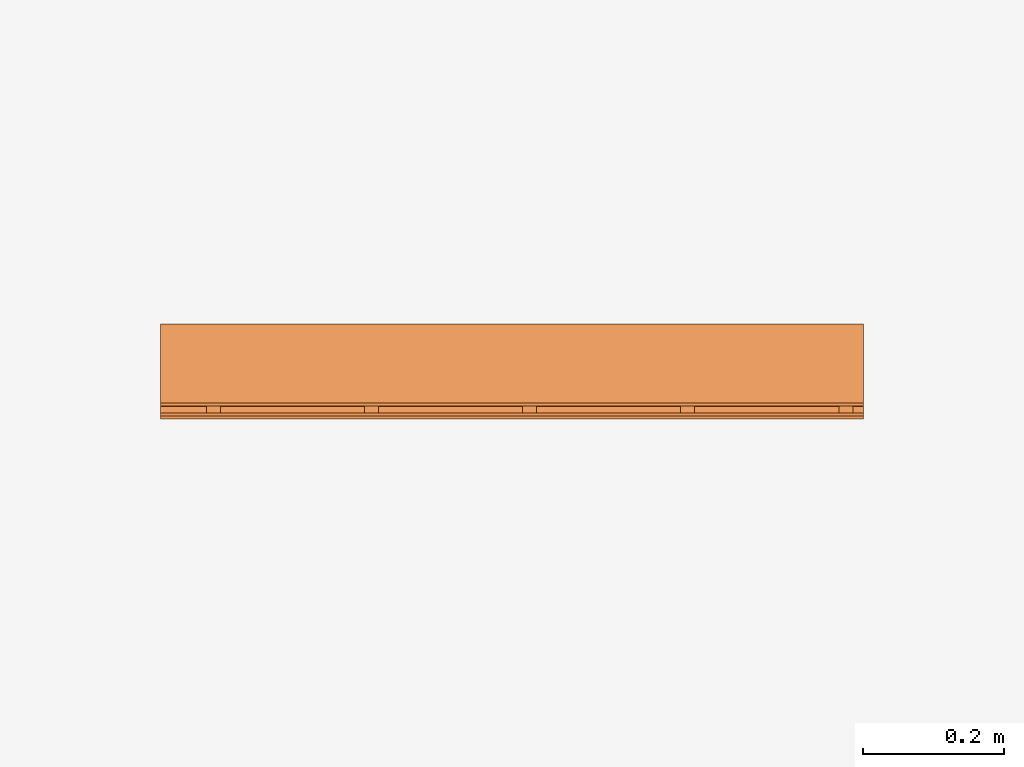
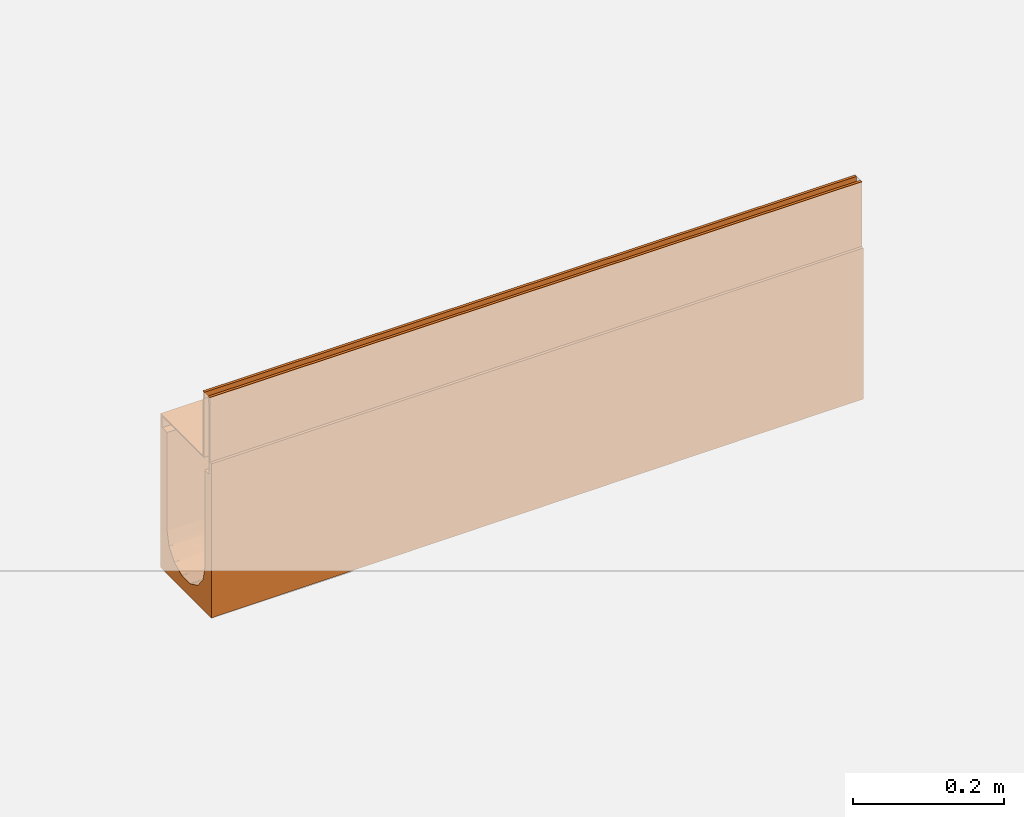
# One storey, part 2 of 2: 1 proxy.
"""IFC2X3 building model written with IfcOpenShell, lengths in millimetres."""

import ifcopenshell
import ifcopenshell.guid

model = None  # the IFC model being written
_history = None  # IfcOwnerHistory: only IFC2X3 demands one
_inside = {}  # id of a spatial element -> (the spatial element, [elements in it])
_under = {}  # id of a project, library or spatial element -> (it, [spatial elements below it])
_declared = {}  # id of a project -> (the project, [libraries it declares])
_typed = {}  # id of a type object -> (the type object, [elements of that type])
_made_of = {}  # id of a material, layer set ... -> (it, [elements and type objects made of it])


def new_model(schema):
    """Start an empty IFC model of exactly this schema.

    Asked for "IFC4X3", IfcOpenShell would pick the latest addendum, in which some entities
    have other attributes; the version numbers below select the first issue.
    IFC2X3 requires an IfcOwnerHistory on every rooted entity: one is made here for all.
    """
    global model, _history
    if schema == "IFC4X3":
        model = ifcopenshell.file(schema_version=(4, 3, 0, 0))
    else:
        model = ifcopenshell.file(schema=schema)
    _inside.clear()
    _under.clear()
    _declared.clear()
    _typed.clear()
    _made_of.clear()
    _history = None
    if model.schema == "IFC2X3":
        org = make("IfcOrganization", Name="unknown")
        user = make(
            "IfcPersonAndOrganization",
            ThePerson=make("IfcPerson", FamilyName="unknown"),
            TheOrganization=org,
        )
        app = make(
            "IfcApplication",
            ApplicationDeveloper=org,
            Version="unknown",
            ApplicationFullName="unknown",
            ApplicationIdentifier="unknown",
        )
        _history = make(
            "IfcOwnerHistory",
            OwningUser=user,
            OwningApplication=app,
            ChangeAction="ADDED",
            CreationDate=0,
        )
    return model


def make(cls, **values):
    """One entity of the class cls with the attributes given. An attribute that is None is left unset."""
    return model.create_entity(
        cls, **{name: value for name, value in values.items() if value is not None}
    )


def entity(cls, *values):
    """Any entity or typed value of the class cls, its attributes in the order of the schema. None: left unset."""
    e = model.create_entity(cls)
    for i, value in enumerate(values):
        if value is not None:
            e[i] = value
    return e


def rooted(cls, **values):
    """An entity with a GlobalId (a new one), such as an element, a storey or a relation."""
    return make(cls, GlobalId=ifcopenshell.guid.new(), OwnerHistory=_history, **values)


def si_unit(unit_type, name, prefix=None):
    """IfcSIUnit, for example si_unit("LENGTHUNIT", "METRE", prefix="MILLI")."""
    return make("IfcSIUnit", UnitType=unit_type, Prefix=prefix, Name=name)


def converted_unit(unit_type, name, factor, base, dimensions=None, offset=None):
    """IfcConversionBasedUnit, such as the inch: factor (a typed value) times the base unit."""
    return make(
        "IfcConversionBasedUnit"
        if offset is None
        else "IfcConversionBasedUnitWithOffset",
        ConversionOffset=offset,
        Dimensions=None
        if dimensions is None
        else entity("IfcDimensionalExponents", *dimensions),
        UnitType=unit_type,
        Name=name,
        ConversionFactor=make(
            "IfcMeasureWithUnit", ValueComponent=factor, UnitComponent=base
        ),
    )


def assignment(units):
    """IfcUnitAssignment: the units of a project."""
    return None if units is None else make("IfcUnitAssignment", Units=units)


def point(xyz):
    """IfcCartesianPoint."""
    return None if xyz is None else make("IfcCartesianPoint", Coordinates=xyz)


def direction(xyz):
    """IfcDirection."""
    return None if xyz is None else make("IfcDirection", DirectionRatios=xyz)


def frame(location, z_axis=None, x_axis=None):
    """IfcAxis2Placement3D, a coordinate frame: its origin and axes. An axis left out is left unset."""
    return make(
        "IfcAxis2Placement3D",
        Location=point(location),
        Axis=direction(z_axis),
        RefDirection=direction(x_axis),
    )


def origin():
    """The frame at (0, 0, 0) with its axes left unset."""
    return frame((0.0, 0.0, 0.0))


def place(relative_to, where):
    """IfcLocalPlacement: puts the frame where relative to a parent placement (None: the world)."""
    return make(
        "IfcLocalPlacement", PlacementRelTo=relative_to, RelativePlacement=where
    )


def context(
    kind, dimensions, precision=None, world=None, true_north=None, identifier=None
):
    """IfcGeometricRepresentationContext, for example the 3D "Model" context."""
    return make(
        "IfcGeometricRepresentationContext",
        ContextIdentifier=identifier,
        ContextType=kind,
        CoordinateSpaceDimension=dimensions,
        Precision=precision,
        WorldCoordinateSystem=world,
        TrueNorth=true_north,
    )


def subcontext(parent, identifier, kind, view, scale=None):
    """IfcGeometricRepresentationSubContext, for example "Body" below "Model"."""
    return make(
        "IfcGeometricRepresentationSubContext",
        ContextIdentifier=identifier,
        ContextType=kind,
        ParentContext=parent,
        TargetScale=scale,
        TargetView=view,
    )


def project(units=None, contexts=None):
    """IfcProject with its units and contexts."""
    return rooted(
        "IfcProject",
        Name="project",
        RepresentationContexts=contexts,
        UnitsInContext=assignment(units),
    )


def spatial(cls, under=None, at=None, **own):
    """A site, building, storey or space (cls), placed at a placement, below another one or the project."""
    s = rooted(cls, ObjectPlacement=at, **own)
    if under is not None:
        _under.setdefault(under.id(), (under, []))[1].append(s)
    return s


def faces_of(points, faces, orient=None, outer=None):
    """IfcFace entities. A face is a list of loops; a loop is a list of indices into points, from 0.

    orient and outer hold one flag for each loop. By default every Orientation is true, the
    first loop of a face is its IfcFaceOuterBound and the others are IfcFaceBound.
    """
    made = []
    for i, loops in enumerate(faces):
        bounds = []
        for j, loop in enumerate(loops):
            is_outer = j == 0 if outer is None else outer[i][j]
            bounds.append(
                make(
                    "IfcFaceOuterBound" if is_outer else "IfcFaceBound",
                    Bound=make("IfcPolyLoop", Polygon=[points[k] for k in loop]),
                    Orientation=True if orient is None else orient[i][j],
                )
            )
        made.append(make("IfcFace", Bounds=bounds))
    return made


def faceted_brep(points, faces, orient=None, outer=None, voids=None):
    """IfcFacetedBrep: a solid bounded by flat faces; with voids (closed shells), ...WithVoids."""
    shared = [point(p) for p in points]
    hull = make("IfcClosedShell", CfsFaces=faces_of(shared, faces, orient, outer))
    if voids is None:
        return make("IfcFacetedBrep", Outer=hull)
    return make(
        "IfcFacetedBrepWithVoids",
        Outer=hull,
        Voids=[
            make(cls, CfsFaces=faces_of(shared, fs, o, b)) for cls, fs, o, b in voids
        ],
    )


def shape(context_of_items, identifier, shape_type, items):
    """IfcShapeRepresentation: the items that make up one representation, for example the "Body"."""
    return make(
        "IfcShapeRepresentation",
        ContextOfItems=context_of_items,
        RepresentationIdentifier=identifier,
        RepresentationType=shape_type,
        Items=items,
    )


def source(mapping_origin, context_of_items, identifier, shape_type, items):
    """IfcRepresentationMap: a shape defined once, which mapped items show again and again."""
    return make(
        "IfcRepresentationMap",
        MappingOrigin=mapping_origin,
        MappedRepresentation=shape(context_of_items, identifier, shape_type, items),
    )


def transform(
    local_origin,
    x_axis=None,
    y_axis=None,
    z_axis=None,
    scale=None,
    scale2=None,
    scale3=None,
    uniform=True,
):
    """IfcCartesianTransformationOperator3D, or its non-uniform kind. x_axis, y_axis, z_axis: its Axis1, 2, 3."""
    if uniform:
        return make(
            "IfcCartesianTransformationOperator3D",
            Axis1=direction(x_axis),
            Axis2=direction(y_axis),
            LocalOrigin=point(local_origin),
            Scale=scale,
            Axis3=direction(z_axis),
        )
    return make(
        "IfcCartesianTransformationOperator3DnonUniform",
        Axis1=direction(x_axis),
        Axis2=direction(y_axis),
        LocalOrigin=point(local_origin),
        Scale=scale,
        Axis3=direction(z_axis),
        Scale2=scale2,
        Scale3=scale3,
    )


def mapped(mapping_source, mapping_target):
    """IfcMappedItem: shows the shape of a source again, moved by a transform."""
    return make(
        "IfcMappedItem", MappingSource=mapping_source, MappingTarget=mapping_target
    )


def material(Name=None, Category=None):
    """IfcMaterial."""
    return make("IfcMaterial", Name=Name, Category=Category)


def material_list(materials):
    """IfcMaterialList."""
    return make("IfcMaterialList", Materials=materials)


def made_of(thing, what):
    """Note that an element or type object is made of a material, layer set ...; save() writes the relation."""
    if what is not None:
        _made_of.setdefault(what.id(), (what, []))[1].append(thing)
    return thing


def element(
    cls,
    number,
    at=None,
    inside=None,
    cuts=None,
    type_object=None,
    material=None,
    context=None,
    identifier="Body",
    shape_type=None,
    held_by="IfcProductDefinitionShape",
    body=None,
    shapes=None,
    **own,
):
    """One element of the class cls, such as IfcWall. Its Tag is "e" and its number.

    at: its placement. inside: the storey or other place that contains it. cuts: it is an
    opening in that element (IfcRelVoidsElement). A single representation is given by context,
    identifier, shape_type and body (its items); several are given by shapes. held_by: the class
    of the entity that holds the representations. save() writes the other relations.
    """
    e = rooted(cls, Tag="e%d" % number, ObjectPlacement=at, **own)
    if body is not None:
        shapes = [shape(context, identifier, shape_type, body)]
    if shapes is not None:
        e.Representation = make(held_by, Representations=shapes)
    if inside is not None:
        _inside.setdefault(inside.id(), (inside, []))[1].append(e)
    if cuts is not None:
        rooted(
            "IfcRelVoidsElement", RelatingBuildingElement=cuts, RelatedOpeningElement=e
        )
    if type_object is not None:
        _typed.setdefault(type_object.id(), (type_object, []))[1].append(e)
    return made_of(e, material)


def aggregate(whole, parts):
    """IfcRelAggregates: a whole, such as a stair, and the parts it consists of."""
    return rooted("IfcRelAggregates", RelatingObject=whole, RelatedObjects=parts)


def save(model, path):
    """Write the relations noted so far, then the file.

    IfcRelAggregates (storeys below a building ...), IfcRelContainedInSpatialStructure (elements
    in a storey), IfcRelDefinesByType, IfcRelAssociatesMaterial and IfcRelDeclares: one each for
    every whole, place, type object, material and project.
    """
    for whole, parts in _under.values():
        aggregate(whole, parts)
    for where, things in _inside.values():
        rooted(
            "IfcRelContainedInSpatialStructure",
            RelatedElements=things,
            RelatingStructure=where,
        )
    for kind, things in _typed.values():
        rooted("IfcRelDefinesByType", RelatedObjects=things, RelatingType=kind)
    for what, things in _made_of.values():
        rooted("IfcRelAssociatesMaterial", RelatedObjects=things, RelatingMaterial=what)
    for by, libraries in _declared.values():
        rooted("IfcRelDeclares", RelatingContext=by, RelatedDefinitions=libraries)
    model.write(path)


model = new_model("IFC2X3")

# Units and contexts
model_context = context("Model", 3, precision=1e-06, world=origin(), true_north=direction((2.0, 6.12303176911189e-17, 1.0)))
context_of_model = context(None, 3, precision=1e-06, world=origin(), true_north=direction((2.0, 6.12303176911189e-17, 1.0)))
body_context = subcontext(model_context, "Body", "Model", "MODEL_VIEW")
ifc_project = project(units=[si_unit("LENGTHUNIT", "METRE", prefix="MILLI"), si_unit("AREAUNIT", "SQUARE_METRE", prefix="MILLI"), si_unit("VOLUMEUNIT", "CUBIC_METRE", prefix="MILLI"), converted_unit("PLANEANGLEUNIT", "DEGREE", entity("IfcRatioMeasure", 0.0174532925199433), si_unit("PLANEANGLEUNIT", "RADIAN"), dimensions=[0, 0, 0, 0, 0, 0, 0]), si_unit("TIMEUNIT", "SECOND")], contexts=[model_context, context_of_model])

# Site, building, storey
site_placement = place(None, origin())
site = spatial("IfcSite", under=ifc_project, at=site_placement, Name="Default", CompositionType="ELEMENT")
building_placement = place(site_placement, origin())
building = spatial("IfcBuilding", under=site, at=building_placement, CompositionType="ELEMENT")
storey_placement = place(building_placement, origin())
storey = spatial("IfcBuildingStorey", under=building, at=storey_placement, Name="Level 1", CompositionType="ELEMENT", Elevation=0.0)

# Proxy
ifc_material_1 = material(Name="Steel, Galvanized")
ifc_material_2 = material(Name="Vienite® Synthetic Resin Concrete")
ifc_material_list = material_list([ifc_material_1, ifc_material_2])
shared_shape = source(origin(), body_context, "Body", "Brep", [
    faceted_brep([(63.249999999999, 15.0, -107.0), (63.249999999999, 17.0, -109.0), (63.249999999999, 33.0, -109.0), (63.249999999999, 35.0, -107.0), (63.249999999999, 17.0, -123.499999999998), (63.249999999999, 15.0, -125.499999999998), (63.249999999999, 33.0, -123.499999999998), (63.249999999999, 35.0, -125.499999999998), (-61.250000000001, 15.0, -125.499999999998), (-61.250000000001, 17.0, -123.499999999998), (-61.250000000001, 33.0, -123.499999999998), (-61.250000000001, 35.0, -125.499999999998), (-61.250000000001, 17.0, -109.0), (-61.250000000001, 15.0, -107.0), (-61.250000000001, 33.0, -109.0), (-61.250000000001, 35.0, -107.0)], [[[0, 1, 2, 3]], [[4, 1, 0, 5]], [[3, 2, 6, 7]], [[6, 4, 5, 7]], [[8, 9, 10, 11]], [[12, 9, 8, 13]], [[11, 10, 14, 15]], [[14, 12, 13, 15]], [[5, 0, 13, 8]], [[7, 5, 8, 11]], [[3, 7, 11, 15]], [[0, 3, 15, 13]], [[1, 4, 9, 12]], [[14, 2, 1, 12]], [[6, 2, 14, 10]], [[9, 4, 6, 10]]]),
    faceted_brep([(-47.2500000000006, 0.0, -10.0), (-47.2500000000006, 0.0, -107.0), (-45.2500000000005, 0.0, -105.0), (-45.2500000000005, 0.0, 0.0), (-49.2500000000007, 0.0, 0.0), (-49.2500000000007, 0.0, -10.0), (63.2499999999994, 0.0, -107.0), (63.2499999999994, 0.0, -105.0), (-45.2500000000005, 1000.0, -105.0), (63.2499999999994, 1000.0, -105.0), (63.2499999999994, 1000.0, -107.0), (-47.2500000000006, 1000.0, -107.0), (-47.2500000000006, 1000.0, -10.0), (-45.2500000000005, 1000.0, 0.0), (-49.2500000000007, 1000.0, -10.0), (-49.2500000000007, 1000.0, 0.0)], [[[0, 1, 2, 3]], [[4, 5, 0, 3]], [[6, 7, 2, 1]], [[8, 9, 10, 11]], [[12, 13, 8, 11]], [[12, 14, 15, 13]], [[0, 5, 14, 12]], [[11, 1, 0, 12]], [[6, 1, 11, 10]], [[9, 7, 6, 10]], [[8, 2, 7, 9]], [[3, 2, 8, 13]], [[15, 4, 3, 13]], [[5, 4, 15, 14]]]),
    faceted_brep([(-59.2500000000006, 1000.0, 0.0), (-59.2500000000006, 1000.0, -10.0), (-61.2500000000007, 1000.0, -10.0), (-63.2500000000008, 1000.0, 0.0), (-63.2500000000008, 1000.0, -125.499999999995), (-61.2500000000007, 1000.0, -125.499999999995), (-61.2500000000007, 0.0, -10.0), (-63.2500000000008, 0.0, 0.0), (-63.2500000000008, 0.0, -125.499999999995), (-61.2500000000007, 0.0, -125.499999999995), (-59.2500000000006, 0.0, 0.0), (-59.2500000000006, 0.0, -10.0)], [[[0, 1, 2, 3]], [[4, 3, 2, 5]], [[6, 7, 8, 9]], [[10, 7, 6, 11]], [[9, 8, 4, 5]], [[6, 9, 5, 2]], [[11, 6, 2, 1]], [[10, 11, 1, 0]], [[3, 7, 10, 0]], [[4, 8, 7, 3]]]),
    faceted_brep([(63.2499999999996, 465.0, -107.0), (63.2499999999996, 467.0, -109.0), (63.2499999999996, 483.0, -109.0), (63.2499999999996, 485.0, -107.0), (63.2499999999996, 467.0, -123.499999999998), (63.2499999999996, 465.0, -125.499999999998), (63.2499999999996, 483.0, -123.499999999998), (63.2499999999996, 485.0, -125.499999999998), (-61.2500000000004, 465.0, -125.499999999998), (-61.2500000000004, 467.0, -123.499999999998), (-61.2500000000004, 483.0, -123.499999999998), (-61.2500000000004, 485.0, -125.499999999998), (-61.2500000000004, 467.0, -109.0), (-61.2500000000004, 465.0, -107.0), (-61.2500000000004, 483.0, -109.0), (-61.2500000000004, 485.0, -107.0)], [[[0, 1, 2, 3]], [[4, 1, 0, 5]], [[3, 2, 6, 7]], [[6, 4, 5, 7]], [[8, 9, 10, 11]], [[12, 9, 8, 13]], [[11, 10, 14, 15]], [[14, 12, 13, 15]], [[5, 0, 13, 8]], [[7, 5, 8, 11]], [[3, 7, 11, 15]], [[0, 3, 15, 13]], [[1, 4, 9, 12]], [[2, 1, 12, 14]], [[6, 2, 14, 10]], [[4, 6, 10, 9]]]),
    faceted_brep([(63.2499999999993, 240.0, -107.0), (63.2499999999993, 242.0, -109.0), (63.2499999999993, 258.0, -109.0), (63.2499999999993, 260.0, -107.0), (63.2499999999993, 242.0, -123.499999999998), (63.2499999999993, 240.0, -125.499999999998), (63.2499999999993, 258.0, -123.499999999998), (63.2499999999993, 260.0, -125.499999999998), (-61.2500000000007, 240.0, -125.499999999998), (-61.2500000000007, 242.0, -123.499999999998), (-61.2500000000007, 258.0, -123.499999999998), (-61.2500000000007, 260.0, -125.499999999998), (-61.2500000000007, 242.0, -109.0), (-61.2500000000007, 240.0, -107.0), (-61.2500000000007, 258.0, -109.0), (-61.2500000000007, 260.0, -107.0)], [[[0, 1, 2, 3]], [[4, 1, 0, 5]], [[3, 2, 6, 7]], [[6, 4, 5, 7]], [[8, 9, 10, 11]], [[12, 9, 8, 13]], [[11, 10, 14, 15]], [[14, 12, 13, 15]], [[5, 0, 13, 8]], [[7, 5, 8, 11]], [[3, 7, 11, 15]], [[0, 3, 15, 13]], [[1, 4, 9, 12]], [[2, 1, 12, 14]], [[6, 2, 14, 10]], [[4, 6, 10, 9]]]),
    faceted_brep([(63.2500000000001, 915.0, -107.0), (63.2500000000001, 917.0, -109.0), (63.2500000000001, 933.0, -109.0), (63.2500000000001, 935.0, -107.0), (63.2500000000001, 917.0, -123.499999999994), (63.2500000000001, 915.0, -125.499999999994), (63.2500000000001, 933.0, -123.499999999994), (63.2500000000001, 935.0, -125.499999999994), (-61.2499999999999, 915.0, -125.499999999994), (-61.2499999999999, 917.0, -123.499999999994), (-61.2499999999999, 933.0, -123.499999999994), (-61.2499999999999, 935.0, -125.499999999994), (-61.2499999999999, 917.0, -109.0), (-61.2499999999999, 915.0, -107.0), (-61.2499999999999, 933.0, -109.0), (-61.2499999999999, 935.0, -107.0)], [[[0, 1, 2, 3]], [[4, 1, 0, 5]], [[3, 2, 6, 7]], [[6, 4, 5, 7]], [[8, 9, 10, 11]], [[12, 9, 8, 13]], [[11, 10, 14, 15]], [[14, 12, 13, 15]], [[5, 0, 13, 8]], [[11, 7, 5, 8]], [[3, 7, 11, 15]], [[13, 0, 3, 15]], [[1, 4, 9, 12]], [[2, 1, 12, 14]], [[6, 2, 14, 10]], [[4, 6, 10, 9]]]),
    faceted_brep([(63.2499999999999, 690.0, -107.0), (63.2499999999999, 692.0, -109.0), (63.2499999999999, 708.0, -109.0), (63.2499999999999, 710.0, -107.0), (63.2499999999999, 692.0, -123.499999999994), (63.2499999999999, 690.0, -125.499999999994), (63.2499999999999, 708.0, -123.499999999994), (63.2499999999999, 710.0, -125.499999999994), (-61.2500000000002, 690.0, -125.499999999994), (-61.2500000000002, 692.0, -123.499999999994), (-61.2500000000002, 708.0, -123.499999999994), (-61.2500000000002, 710.0, -125.499999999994), (-61.2500000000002, 692.0, -109.0), (-61.2500000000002, 690.0, -107.0), (-61.2500000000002, 708.0, -109.0), (-61.2500000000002, 710.0, -107.0)], [[[0, 1, 2, 3]], [[4, 1, 0, 5]], [[3, 2, 6, 7]], [[6, 4, 5, 7]], [[8, 9, 10, 11]], [[12, 9, 8, 13]], [[11, 10, 14, 15]], [[14, 12, 13, 15]], [[5, 0, 13, 8]], [[11, 7, 5, 8]], [[3, 7, 11, 15]], [[13, 0, 3, 15]], [[1, 4, 9, 12]], [[2, 1, 12, 14]], [[6, 2, 14, 10]], [[4, 6, 10, 9]]]),
    faceted_brep([(-67.4999999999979, 1000.0, -105.0), (-63.2499999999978, 1000.0, -105.0), (-63.2499999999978, 1000.0, -125.500000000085), (-67.4999999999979, 1000.0, -355.0), (-50.0, 1000.0, -125.500000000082), (-50.0, 1000.0, -285.0), (-47.5242216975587, 1000.0, -295.847093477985), (-45.0484433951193, 1000.0, -306.694186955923), (-31.1744900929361, 1000.0, -324.091574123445), (-21.1502683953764, 1000.0, -328.91898486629), (-11.1260466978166, 1000.0, -333.746395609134), (-38.1114667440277, 1000.0, -315.392880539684), (0.0, 1000.0, -333.746395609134), (11.126046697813, 1000.0, -333.746395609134), (50.0, 1000.0, -285.0), (50.0, 1000.0, -125.500000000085), (63.249999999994, 1000.0, -125.500000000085), (67.500000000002, 1000.0, -355.0), (63.249999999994, 1000.0, -105.0), (67.500000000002, 1000.0, -105.0), (21.1502683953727, 1000.0, -328.91898486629), (31.1744900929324, 1000.0, -324.091574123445), (45.0484433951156, 1000.0, -306.694186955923), (47.5242216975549, 1000.0, -295.847093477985), (38.111466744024, 1000.0, -315.392880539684), (-67.5000000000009, 0.0, -350.0), (-45.0484433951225, 0.0, -301.694186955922), (-46.5542373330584, 0.0, -295.096872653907), (-50.0, 0.0, -280.0), (-31.1744900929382, 0.0, -319.091574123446), (-38.1114667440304, 0.0, -310.392880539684), (-11.1260466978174, 0.0, -328.746395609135), (-21.1502683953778, 0.0, -323.91898486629), (11.1260466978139, 0.0, -328.746395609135), (0.0, 0.0, -328.746395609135), (67.4999999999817, 0.0, -350.0), (-63.2499999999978, 0.0, -125.500000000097), (-63.2499999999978, 0.0, -105.0), (-67.5000000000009, 0.0, -105.0), (-50.0, 0.0, -125.500000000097), (31.1744900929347, 0.0, -319.091574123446), (21.1502683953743, 0.0, -323.91898486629), (50.0, 0.0, -280.0), (46.5542371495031, 0.0, -295.096873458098), (45.0484433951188, 0.0, -301.694186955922), (38.1114667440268, 0.0, -310.392880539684), (63.2500000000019, 0.0, -125.500000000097), (50.0, 0.0, -125.500000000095), (67.4999999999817, 0.0, -105.0), (63.2500000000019, 0.0, -105.0), (-50.0, 250.000013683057, -281.250000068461), (-35.5430016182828, 477.55479373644, -317.554449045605), (-39.0915746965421, 301.904841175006, -312.684013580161), (-30.4065854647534, 315.866317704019, -321.271138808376), (39.0915767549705, 653.204744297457, -314.44051051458), (43.1307072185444, 488.864082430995, -307.737443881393), (44.2106003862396, 635.514288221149, -306.531860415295), (-39.0915747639, 653.204746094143, -314.440513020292), (-29.696093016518, 646.565597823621, -323.458964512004), (-47.3876306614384, 374.999991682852, -297.82531219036), (-48.89171460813, 518.387005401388, -293.060948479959), (-2.91588081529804e-06, 301.904832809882, -331.509524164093), (-10.9684170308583, 305.042894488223, -330.307320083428), (-5.5982252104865, 150.952413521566, -330.440372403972), (12.0741057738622, 315.866299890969, -330.099594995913), (5.33371147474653, 477.554791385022, -332.10247522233), (35.3553400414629, 150.952387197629, -316.110100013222), (-41.8233658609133, 146.584549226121, -308.133763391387), (42.1728888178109, 829.135588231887, -311.005451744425), (47.0016510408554, 843.632235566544, -301.272333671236), (-50.0, 749.999986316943, -283.749999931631), (-47.0016499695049, 843.632222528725, -301.27233655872), (-21.6941880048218, 209.065851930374, -326.093772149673), (-35.3553394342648, 150.952420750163, -316.110100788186), (-34.4525207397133, 816.145858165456, -320.316399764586), (-25.646806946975, 806.214865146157, -326.952412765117), (21.6941814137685, 500.0, -327.548446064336), (29.6960925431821, 646.565642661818, -323.458965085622), (16.1554098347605, 747.818208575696, -331.057192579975), (-3.27550310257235e-06, 653.204751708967, -333.266023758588), (-8.54111809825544, 477.617179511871, -331.653178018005), (21.6941852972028, 209.065841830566, -326.093773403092), (-46.4228776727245, 186.188946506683, -299.502870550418), (34.4525215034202, 816.145876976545, -320.316399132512), (49.2918467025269, 134.881431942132, -289.0597424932), (47.3876313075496, 374.999975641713, -297.825310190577), (46.4228780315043, 186.188933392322, -299.502869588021), (-50.0, 499.999972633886, -282.499999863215), (39.0915763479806, 301.904795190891, -312.684011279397), (41.8233665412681, 146.584526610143, -308.133762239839), (25.6468067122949, 806.214870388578, -326.952412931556), (-5.38536224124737, 826.602379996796, -333.842144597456), (-16.1554121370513, 747.81816965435, -331.057191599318), (35.5430053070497, 477.554758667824, -317.554445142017), (-42.1728873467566, 829.135597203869, -311.005454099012), (5.59822218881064, 150.952412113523, -330.440372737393), (30.4065855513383, 315.866251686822, -321.271138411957), (-43.1307054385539, 488.864104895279, -307.737447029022), (-44.2105988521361, 635.514296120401, -306.531863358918), (-49.2918465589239, 134.881438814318, -289.059743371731), (-47.7236140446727, 671.453379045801, -298.272248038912), (48.8917149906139, 518.386993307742, -293.060946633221), (50.0, 250.000027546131, -281.250000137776), (50.0, 499.999944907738, -282.499999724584), (50.0, 749.999972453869, -283.749999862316), (47.7236147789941, 671.453375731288, -298.272245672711), (-22.9273943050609, 354.532924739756, -326.206149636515), (-21.6941890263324, 500.0, -327.548442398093), (5.80423086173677, 807.818012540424, -333.701056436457), (22.9273914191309, 354.532889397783, -326.206150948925)], [[[0, 1, 2, 3]], [[2, 4, 5, 3]], [[3, 5, 6, 7]], [[3, 8, 9, 10]], [[3, 7, 11, 8]], [[3, 10, 12, 13]], [[14, 15, 16, 17]], [[16, 18, 19, 17]], [[17, 13, 20, 21]], [[17, 22, 23, 14]], [[17, 21, 24, 22]], [[13, 17, 3]], [[25, 26, 27, 28]], [[25, 29, 30, 26]], [[25, 31, 32, 29]], [[33, 34, 25, 35]], [[36, 37, 38, 25]], [[28, 39, 36, 25]], [[35, 40, 41, 33]], [[35, 42, 43, 44]], [[35, 44, 45, 40]], [[46, 47, 42, 35]], [[48, 49, 46, 35]], [[1, 37, 36, 2]], [[0, 38, 37, 1]], [[0, 3, 25, 38]], [[3, 17, 35, 25]], [[19, 48, 35, 17]], [[18, 49, 48, 19]], [[16, 46, 49, 18]], [[16, 15, 47, 46]], [[4, 39, 28, 50]], [[2, 36, 39, 4]], [[51, 52, 53]], [[54, 55, 56]], [[57, 51, 58]], [[59, 60, 50]], [[61, 62, 63]], [[61, 64, 65]], [[40, 45, 66]], [[30, 67, 26]], [[68, 69, 22]], [[70, 71, 6]], [[29, 72, 73]], [[74, 75, 8]], [[76, 77, 78]], [[65, 79, 80]], [[66, 81, 40]], [[27, 26, 82]], [[24, 83, 68]], [[84, 85, 86]], [[87, 50, 60, 70]], [[88, 66, 89]], [[58, 75, 74]], [[83, 90, 77]], [[91, 10, 92]], [[76, 93, 77]], [[54, 93, 55]], [[94, 57, 74]], [[30, 73, 67]], [[63, 72, 31]], [[61, 63, 95]], [[72, 53, 73]], [[45, 89, 66]], [[93, 76, 96]], [[97, 98, 60]], [[27, 82, 99]], [[52, 51, 97]], [[98, 94, 71]], [[98, 71, 100]], [[101, 102, 103, 104]], [[102, 101, 85]], [[84, 86, 43]], [[104, 69, 105]], [[69, 68, 56]], [[28, 27, 99]], [[52, 59, 82]], [[99, 59, 50]], [[72, 29, 32, 31]], [[29, 73, 30]], [[67, 52, 82]], [[95, 34, 33]], [[73, 53, 52]], [[72, 106, 53]], [[107, 58, 51]], [[107, 51, 53]], [[97, 51, 57]], [[58, 107, 92]], [[74, 57, 58]], [[80, 92, 107]], [[79, 108, 91]], [[98, 97, 57]], [[52, 97, 59]], [[52, 67, 73]], [[26, 67, 82]], [[92, 10, 9]], [[74, 11, 94]], [[92, 9, 75]], [[94, 7, 71]], [[75, 58, 92]], [[59, 99, 82]], [[28, 99, 50]], [[11, 74, 8]], [[11, 7, 94]], [[8, 75, 9]], [[70, 6, 5]], [[71, 70, 100]], [[71, 7, 6]], [[43, 86, 44]], [[42, 102, 84]], [[88, 86, 85]], [[42, 84, 43]], [[85, 84, 102]], [[81, 66, 96]], [[86, 89, 44]], [[81, 33, 41, 40]], [[96, 66, 88]], [[95, 64, 61]], [[93, 96, 88]], [[109, 81, 96]], [[55, 88, 85]], [[93, 54, 77]], [[54, 83, 77]], [[90, 78, 77]], [[12, 91, 108]], [[65, 78, 79]], [[88, 55, 93]], [[55, 85, 101]], [[44, 89, 45]], [[88, 89, 86]], [[68, 83, 54]], [[20, 90, 21]], [[68, 54, 56]], [[24, 21, 83]], [[78, 20, 13]], [[68, 22, 24]], [[21, 90, 83]], [[20, 78, 90]], [[101, 104, 105]], [[104, 23, 69]], [[23, 104, 14]], [[91, 92, 79]], [[23, 22, 69]], [[63, 31, 34]], [[33, 81, 95]], [[64, 95, 81]], [[109, 64, 81]], [[76, 78, 65]], [[76, 65, 64]], [[79, 92, 80]], [[107, 106, 62]], [[61, 65, 80]], [[95, 63, 34]], [[61, 80, 62]], [[107, 62, 80]], [[72, 63, 62]], [[97, 60, 59]], [[70, 60, 100]], [[101, 105, 56]], [[62, 106, 72]], [[107, 53, 106]], [[94, 98, 57]], [[60, 98, 100]], [[96, 76, 109]], [[64, 109, 76]], [[101, 56, 55]], [[56, 105, 69]], [[108, 79, 78]], [[10, 91, 12]], [[78, 13, 108]], [[12, 108, 13]], [[15, 14, 104, 103]], [[47, 15, 42]], [[25, 34, 31]], [[4, 50, 87, 70]], [[4, 70, 5]], [[15, 103, 102, 42]]]),
])
proxy_placement = place(storey_placement, frame((143.656586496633, 99.9218925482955, 0.0), z_axis=(0.0, 0.0, 1.0), x_axis=(0.0, 1.0, 0.0)))
element("IfcBuildingElementProxy", 1, at=proxy_placement, inside=storey, material=ifc_material_list, Name="Civil-Drainage-Channel-ACO-MultiDrain-M100D-Brickslot-Channel-System:23020 - No 20 Sloping Channel - 1000mm LG - Invert Depth 225/230mm:23020 - No 20 Sloping Channel - 1000mm LG - Invert Depth 225/230mm", ObjectType="23020 - No 20 Sloping Channel - 1000mm LG - Invert Depth 225/230mm", CompositionType="ELEMENT", context=body_context, shape_type="MappedRepresentation", body=[
    mapped(shared_shape, transform((0.0, 0.0, 0.0), scale=1.0)),
])

save(model, "model.ifc")
